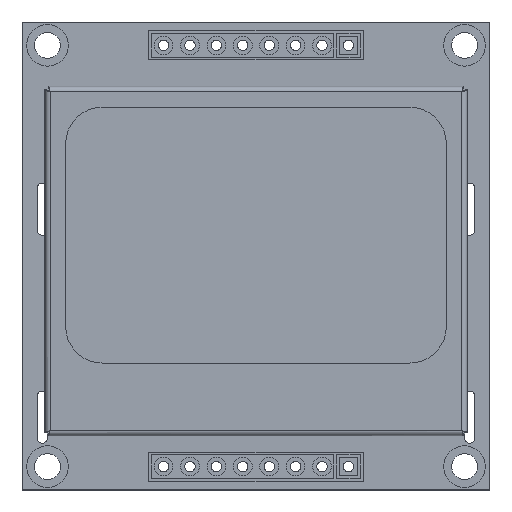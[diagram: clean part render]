
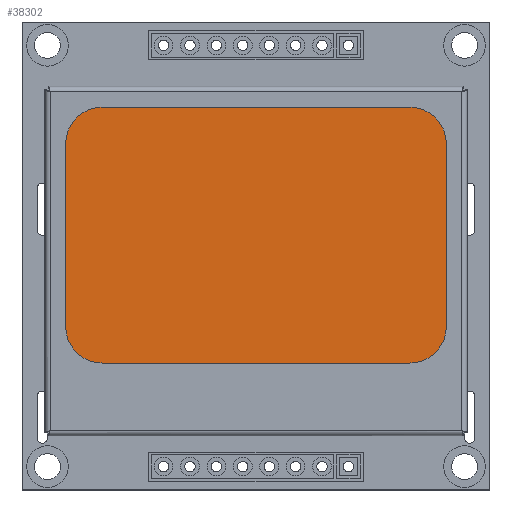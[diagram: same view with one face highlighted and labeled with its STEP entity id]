
A CAD part, top view. The second image highlights one B-rep face of the part: STEP entity #38302.
In plain terms, the highlighted planar face has unit normal (0, 0, 1).
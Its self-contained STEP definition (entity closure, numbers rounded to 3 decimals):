
#723 = VERTEX_POINT ( 'NONE', #52081 ) ;
#1264 = EDGE_CURVE ( 'NONE', #44430, #35505, #7981, .T. ) ;
#3287 = DIRECTION ( 'NONE',  ( 1., 0., 0. ) ) ;
#3874 = CIRCLE ( 'NONE', #20653, 3.5 ) ;
#5519 = VERTEX_POINT ( 'NONE', #12991 ) ;
#5879 = FACE_OUTER_BOUND ( 'NONE', #46160, .T. ) ;
#7036 = CARTESIAN_POINT ( 'NONE',  ( 18.3, 10.8, 4.39 ) ) ;
#7981 = LINE ( 'NONE', #23562, #25856 ) ;
#8957 = ORIENTED_EDGE ( 'NONE', *, *, #49611, .T. ) ;
#9317 = VERTEX_POINT ( 'NONE', #7036 ) ;
#12425 = CARTESIAN_POINT ( 'NONE',  ( 18.3, 10.8, 4.39 ) ) ;
#12744 = CARTESIAN_POINT ( 'NONE',  ( 14.8, 10.8, 4.39 ) ) ;
#12852 = CARTESIAN_POINT ( 'NONE',  ( -14.8, 14.3, 4.39 ) ) ;
#12991 = CARTESIAN_POINT ( 'NONE',  ( -14.8, -10.3, 4.39 ) ) ;
#12993 = DIRECTION ( 'NONE',  ( 1., 0., 0. ) ) ;
#14294 = DIRECTION ( 'NONE',  ( 0., 0., 1. ) ) ;
#15874 = VECTOR ( 'NONE', #3287, 1000. ) ;
#17207 = LINE ( 'NONE', #20097, #15874 ) ;
#17988 = EDGE_CURVE ( 'NONE', #48329, #723, #21318, .T. ) ;
#18574 = DIRECTION ( 'NONE',  ( 1., 0., 0. ) ) ;
#19836 = CARTESIAN_POINT ( 'NONE',  ( -14.8, -6.8, 4.39 ) ) ;
#19957 = DIRECTION ( 'NONE',  ( 1., 0., 0. ) ) ;
#20097 = CARTESIAN_POINT ( 'NONE',  ( -14.8, -10.3, 4.39 ) ) ;
#20254 = AXIS2_PLACEMENT_3D ( 'NONE', #12744, #42351, #21279 ) ;
#20457 = CARTESIAN_POINT ( 'NONE',  ( 14.8, 14.3, 4.39 ) ) ;
#20496 = CARTESIAN_POINT ( 'NONE',  ( -14.8, -6.8, 4.39 ) ) ;
#20653 = AXIS2_PLACEMENT_3D ( 'NONE', #30735, #39238, #12993 ) ;
#21279 = DIRECTION ( 'NONE',  ( -1., 0., 0. ) ) ;
#21318 = CIRCLE ( 'NONE', #36231, 3.5 ) ;
#22145 = CIRCLE ( 'NONE', #36984, 3.5 ) ;
#22416 = ORIENTED_EDGE ( 'NONE', *, *, #44860, .T. ) ;
#23259 = ORIENTED_EDGE ( 'NONE', *, *, #41314, .T. ) ;
#23562 = CARTESIAN_POINT ( 'NONE',  ( -14.8, 14.3, 4.39 ) ) ;
#24254 = VERTEX_POINT ( 'NONE', #33877 ) ;
#25420 = VECTOR ( 'NONE', #29365, 1000. ) ;
#25856 = VECTOR ( 'NONE', #36303, 1000. ) ;
#27383 = ORIENTED_EDGE ( 'NONE', *, *, #43566, .T. ) ;
#27520 = ORIENTED_EDGE ( 'NONE', *, *, #40191, .T. ) ;
#27879 = VERTEX_POINT ( 'NONE', #41209 ) ;
#27939 = DIRECTION ( 'NONE',  ( 0., 0., 1. ) ) ;
#29365 = DIRECTION ( 'NONE',  ( 0., -1., 0. ) ) ;
#30734 = AXIS2_PLACEMENT_3D ( 'NONE', #20496, #45258, #19957 ) ;
#30735 = CARTESIAN_POINT ( 'NONE',  ( -14.8, 10.8, 4.39 ) ) ;
#31076 = LINE ( 'NONE', #12425, #37018 ) ;
#31496 = CARTESIAN_POINT ( 'NONE',  ( 14.8, -6.8, 4.39 ) ) ;
#32298 = ORIENTED_EDGE ( 'NONE', *, *, #1264, .T. ) ;
#33877 = CARTESIAN_POINT ( 'NONE',  ( -18.3, -6.8, 4.39 ) ) ;
#35505 = VERTEX_POINT ( 'NONE', #12852 ) ;
#36231 = AXIS2_PLACEMENT_3D ( 'NONE', #31496, #14294, #18574 ) ;
#36303 = DIRECTION ( 'NONE',  ( -1., 0., 0. ) ) ;
#36426 = DIRECTION ( 'NONE',  ( 1., 0., 0. ) ) ;
#36984 = AXIS2_PLACEMENT_3D ( 'NONE', #19836, #27939, #36426 ) ;
#37018 = VECTOR ( 'NONE', #50139, 1000. ) ;
#37517 = CARTESIAN_POINT ( 'NONE',  ( -18.3, 10.8, 4.39 ) ) ;
#38302 = ADVANCED_FACE ( 'NONE', ( #5879 ), #50047, .T. ) ;
#39238 = DIRECTION ( 'NONE',  ( 0., 0., 1. ) ) ;
#39321 = LINE ( 'NONE', #37517, #25420 ) ;
#40191 = EDGE_CURVE ( 'NONE', #9317, #44430, #45175, .T. ) ;
#41209 = CARTESIAN_POINT ( 'NONE',  ( -18.3, 10.8, 4.39 ) ) ;
#41314 = EDGE_CURVE ( 'NONE', #35505, #27879, #3874, .T. ) ;
#42228 = EDGE_CURVE ( 'NONE', #24254, #5519, #22145, .T. ) ;
#42351 = DIRECTION ( 'NONE',  ( 0., 0., 1. ) ) ;
#43566 = EDGE_CURVE ( 'NONE', #5519, #48329, #17207, .T. ) ;
#44430 = VERTEX_POINT ( 'NONE', #20457 ) ;
#44860 = EDGE_CURVE ( 'NONE', #723, #9317, #31076, .T. ) ;
#45175 = CIRCLE ( 'NONE', #20254, 3.5 ) ;
#45258 = DIRECTION ( 'NONE',  ( 0., 0., 1. ) ) ;
#46160 = EDGE_LOOP ( 'NONE', ( #53979, #27383, #48520, #22416, #27520, #32298, #23259, #8957 ) ) ;
#48329 = VERTEX_POINT ( 'NONE', #48848 ) ;
#48520 = ORIENTED_EDGE ( 'NONE', *, *, #17988, .T. ) ;
#48848 = CARTESIAN_POINT ( 'NONE',  ( 14.8, -10.3, 4.39 ) ) ;
#49611 = EDGE_CURVE ( 'NONE', #27879, #24254, #39321, .T. ) ;
#50047 = PLANE ( 'NONE',  #30734 ) ;
#50139 = DIRECTION ( 'NONE',  ( 0., 1., 0. ) ) ;
#52081 = CARTESIAN_POINT ( 'NONE',  ( 18.3, -6.8, 4.39 ) ) ;
#53979 = ORIENTED_EDGE ( 'NONE', *, *, #42228, .T. ) ;
